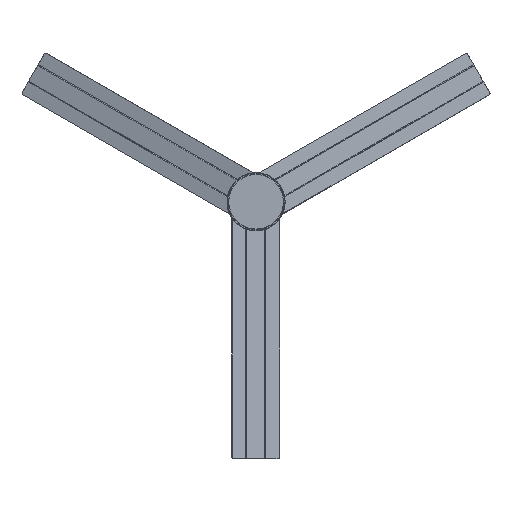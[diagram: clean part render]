
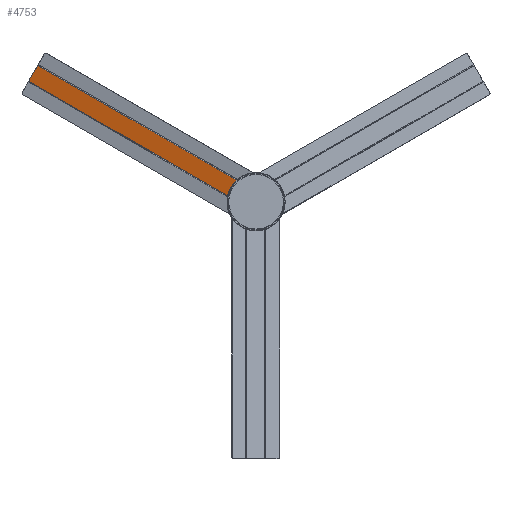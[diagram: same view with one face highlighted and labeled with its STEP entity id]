
A CAD part, top view. The second image highlights one B-rep face of the part: STEP entity #4753.
In plain terms, the highlighted planar face has unit normal (-0.113, -0.195, 0.974) as drawn and (0.225, 0, 0.974) by its records, which use the part's own axes.
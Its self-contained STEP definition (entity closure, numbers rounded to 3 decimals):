
#52=FACE_BOUND('',#752,.T.);
#490=FACE_OUTER_BOUND('',#751,.T.);
#751=EDGE_LOOP('',(#3765,#3766,#3767,#3768));
#752=EDGE_LOOP('',(#3769,#3770));
#962=LINE('',#8492,#1371);
#968=LINE('',#8565,#1377);
#1062=LINE('',#8845,#1471);
#1371=VECTOR('',#5780,304.8);
#1377=VECTOR('',#5824,304.8);
#1471=VECTOR('',#6078,1.);
#1754=CIRCLE('',#5057,56.);
#1762=CIRCLE('',#5108,2.6);
#1763=CIRCLE('',#5111,2.6);
#1997=VERTEX_POINT('',#8485);
#1999=VERTEX_POINT('',#8491);
#2014=VERTEX_POINT('',#8548);
#2019=VERTEX_POINT('',#8564);
#2069=VERTEX_POINT('',#8741);
#2070=VERTEX_POINT('',#8743);
#2550=EDGE_CURVE('',#1999,#1997,#962,.T.);
#2568=EDGE_CURVE('',#2014,#1999,#1754,.T.);
#2574=EDGE_CURVE('',#2019,#2014,#968,.T.);
#2654=EDGE_CURVE('',#2070,#2069,#1762,.T.);
#2657=EDGE_CURVE('',#2069,#2070,#1763,.T.);
#2705=EDGE_CURVE('',#2019,#1997,#1062,.T.);
#3765=ORIENTED_EDGE('',*,*,#2568,.T.);
#3766=ORIENTED_EDGE('',*,*,#2550,.T.);
#3767=ORIENTED_EDGE('',*,*,#2705,.F.);
#3768=ORIENTED_EDGE('',*,*,#2574,.T.);
#3769=ORIENTED_EDGE('',*,*,#2657,.T.);
#3770=ORIENTED_EDGE('',*,*,#2654,.T.);
#4535=PLANE('',#5139);
#4753=ADVANCED_FACE('',(#490,#52),#4535,.T.);
#5057=AXIS2_PLACEMENT_3D('',#8549,#5815,#5816);
#5108=AXIS2_PLACEMENT_3D('',#8744,#5977,#5978);
#5111=AXIS2_PLACEMENT_3D('',#8748,#5984,#5985);
#5139=AXIS2_PLACEMENT_3D('',#8844,#6076,#6077);
#5780=DIRECTION('',(0.,-1.,0.));
#5815=DIRECTION('center_axis',(-0.225,0.,-0.974));
#5816=DIRECTION('ref_axis',(0.88,0.429,-0.203));
#5824=DIRECTION('',(0.,1.,0.));
#5977=DIRECTION('center_axis',(-0.225,0.,-0.974));
#5978=DIRECTION('ref_axis',(0.974,0.,-0.225));
#5984=DIRECTION('center_axis',(-0.225,0.,-0.974));
#5985=DIRECTION('ref_axis',(0.974,0.,-0.225));
#6076=DIRECTION('center_axis',(0.225,0.,0.974));
#6077=DIRECTION('ref_axis',(0.974,0.,-0.225));
#6078=DIRECTION('',(-0.974,0.,0.225));
#8485=CARTESIAN_POINT('',(-23.722,-659.99,1734.52));
#8491=CARTESIAN_POINT('',(-23.722,-50.617,1734.52));
#8492=CARTESIAN_POINT('',(-23.722,-50.617,1734.52));
#8548=CARTESIAN_POINT('',(23.047,-50.576,1723.722));
#8549=CARTESIAN_POINT('Origin',(-0.38,0.,1729.131));
#8564=CARTESIAN_POINT('',(23.047,-659.99,1723.722));
#8565=CARTESIAN_POINT('',(23.047,-659.99,1723.722));
#8741=CARTESIAN_POINT('',(-2.913,-67.,1729.716));
#8743=CARTESIAN_POINT('',(2.153,-67.,1728.546));
#8744=CARTESIAN_POINT('Origin',(-0.38,-67.,1729.131));
#8748=CARTESIAN_POINT('Origin',(-0.38,-67.,1729.131));
#8844=CARTESIAN_POINT('Origin',(73.615,33.77,1712.048));
#8845=CARTESIAN_POINT('',(73.779,-659.99,1712.01));
